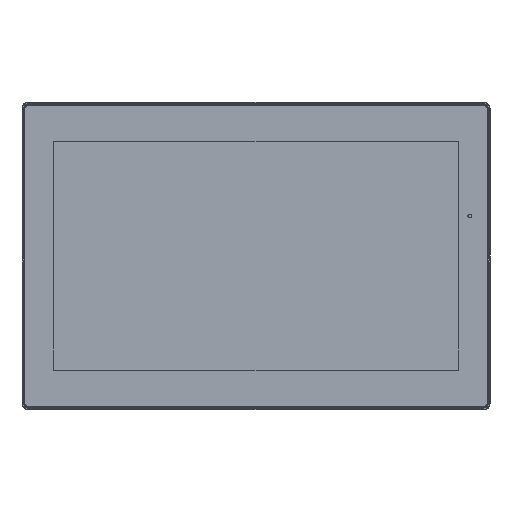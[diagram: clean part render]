
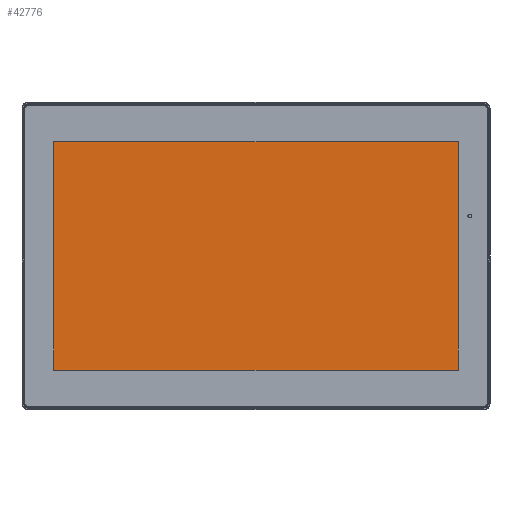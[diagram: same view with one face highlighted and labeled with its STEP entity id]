
A CAD part, top view. The second image highlights one B-rep face of the part: STEP entity #42776.
In plain terms, the highlighted planar face has unit normal (0, 0, 1).
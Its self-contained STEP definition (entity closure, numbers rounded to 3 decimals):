
#1796 = ORIENTED_EDGE ( 'NONE', *, *, #47168, .T. ) ;
#1934 = CARTESIAN_POINT ( 'NONE',  ( 0., 97.525, 4.2 ) ) ;
#3373 = EDGE_CURVE ( 'NONE', #62059, #43529, #69876, .T. ) ;
#6355 = CARTESIAN_POINT ( 'NONE',  ( -172.775, -97.455, 4.2 ) ) ;
#8746 = LINE ( 'NONE', #32974, #13001 ) ;
#11386 = ORIENTED_EDGE ( 'NONE', *, *, #3373, .T. ) ;
#13001 = VECTOR ( 'NONE', #57361, 1000. ) ;
#15242 = CARTESIAN_POINT ( 'NONE',  ( 172.775, 0.035, 4.2 ) ) ;
#16127 = DIRECTION ( 'NONE',  ( 1., 0., 0. ) ) ;
#17261 = DIRECTION ( 'NONE',  ( 0., -1., 0. ) ) ;
#26236 = DIRECTION ( 'NONE',  ( -1., 0., 0. ) ) ;
#28144 = VECTOR ( 'NONE', #39516, 1000. ) ;
#28282 = VERTEX_POINT ( 'NONE', #78135 ) ;
#30391 = ORIENTED_EDGE ( 'NONE', *, *, #37916, .T. ) ;
#30981 = CARTESIAN_POINT ( 'NONE',  ( 172.775, -97.455, 4.2 ) ) ;
#32974 = CARTESIAN_POINT ( 'NONE',  ( 0., -97.455, 4.2 ) ) ;
#33620 = FACE_OUTER_BOUND ( 'NONE', #57497, .T. ) ;
#37101 = AXIS2_PLACEMENT_3D ( 'NONE', #46442, #70734, #16127 ) ;
#37916 = EDGE_CURVE ( 'NONE', #43529, #28282, #56580, .T. ) ;
#38919 = CARTESIAN_POINT ( 'NONE',  ( 172.775, 97.525, 4.2 ) ) ;
#39516 = DIRECTION ( 'NONE',  ( 0., 1., 0. ) ) ;
#42776 = ADVANCED_FACE ( 'NONE', ( #33620 ), #58016, .T. ) ;
#43529 = VERTEX_POINT ( 'NONE', #38919 ) ;
#46442 = CARTESIAN_POINT ( 'NONE',  ( 0., 0.035, 4.2 ) ) ;
#47144 = ORIENTED_EDGE ( 'NONE', *, *, #63814, .T. ) ;
#47168 = EDGE_CURVE ( 'NONE', #28282, #59869, #47561, .T. ) ;
#47561 = LINE ( 'NONE', #71867, #61167 ) ;
#56580 = LINE ( 'NONE', #1934, #75364 ) ;
#57361 = DIRECTION ( 'NONE',  ( 1., 0., 0. ) ) ;
#57497 = EDGE_LOOP ( 'NONE', ( #47144, #11386, #30391, #1796 ) ) ;
#58016 = PLANE ( 'NONE',  #37101 ) ;
#59869 = VERTEX_POINT ( 'NONE', #6355 ) ;
#61167 = VECTOR ( 'NONE', #17261, 1000. ) ;
#62059 = VERTEX_POINT ( 'NONE', #30981 ) ;
#63814 = EDGE_CURVE ( 'NONE', #59869, #62059, #8746, .T. ) ;
#69876 = LINE ( 'NONE', #15242, #28144 ) ;
#70734 = DIRECTION ( 'NONE',  ( 0., 0., 1. ) ) ;
#71867 = CARTESIAN_POINT ( 'NONE',  ( -172.775, 0.035, 4.2 ) ) ;
#75364 = VECTOR ( 'NONE', #26236, 1000. ) ;
#78135 = CARTESIAN_POINT ( 'NONE',  ( -172.775, 97.525, 4.2 ) ) ;
